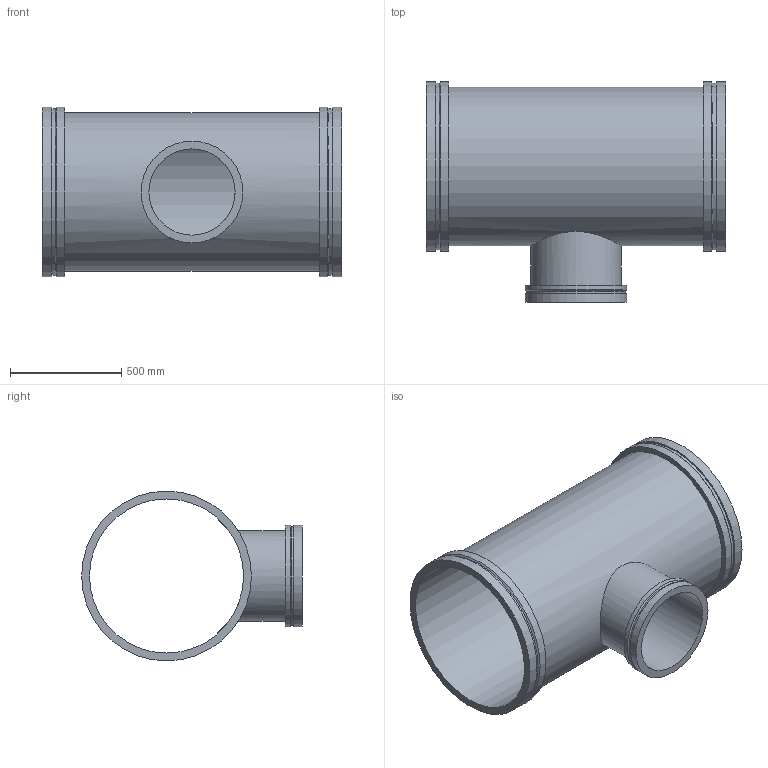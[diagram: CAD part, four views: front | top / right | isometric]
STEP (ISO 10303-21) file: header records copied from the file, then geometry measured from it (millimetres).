
FILE_DESCRIPTION(/* description */ ('VIC REDUCING TEE No W025 VR','CAx-IF Rec.Pracs.---Representation and Presentation of Product Manufacturing Information (PMI)---4.0---2014-10-13'),/* implementation_level */ '2;1');
FILE_NAME(/* name */ 'C:\Users\kkamble\AppData\Roaming\Autodesk\ApplicationPlugins\Back Up\Victaulic_Vic-Ring_Tee Reducing_No W25 VR (AGR)\Victaulic_Vic-Ring_Tee Reducing_No W25 VR (AGR)_28.0x16.0 (700x400).stp',/* time_stamp */ '2020-09-10T11:53:47+05:00',/* author */ ('mchristi'),/* organization */ ('Victaulic'),/* preprocessor_version */ 'ST-DEVELOPER v17.2',/* originating_system */ 'Autodesk Inventor 2019',/* authorisation */ '');
FILE_SCHEMA (('AP242_MANAGED_MODEL_BASED_3D_ENGINEERING_MIM_LF { 1 0 10303 442 1 1 4 }'));
Length unit declared in the file: inch
Products named in the file (1): W25 VR-28.0x16.0
Bounding box: 1346.2 x 990.6 x 762 mm (x, y, z)
Volume: 44341204.4 mm3; surface area: 6860011.3 mm2
Topology: 1 solids, 1 shells, 25 faces, 68 edges, 52 vertices
Faces by surface type: cylinder 13, plane 9, cone 3
Full cylindrical faces by diameter (mm): 387.35 x1, 406.4 x1, 444.5 x1, 457.2 x2, 692.15 x1, 711.2 x1, 747.522 x2, 762 x4
Entity records: 1203 total; most frequent: CARTESIAN_POINT 359, DIRECTION 190, ORIENTED_EDGE 136, AXIS2_PLACEMENT_3D 87, EDGE_CURVE 68, VERTEX_POINT 52, CIRCLE 48, EDGE_LOOP 36
